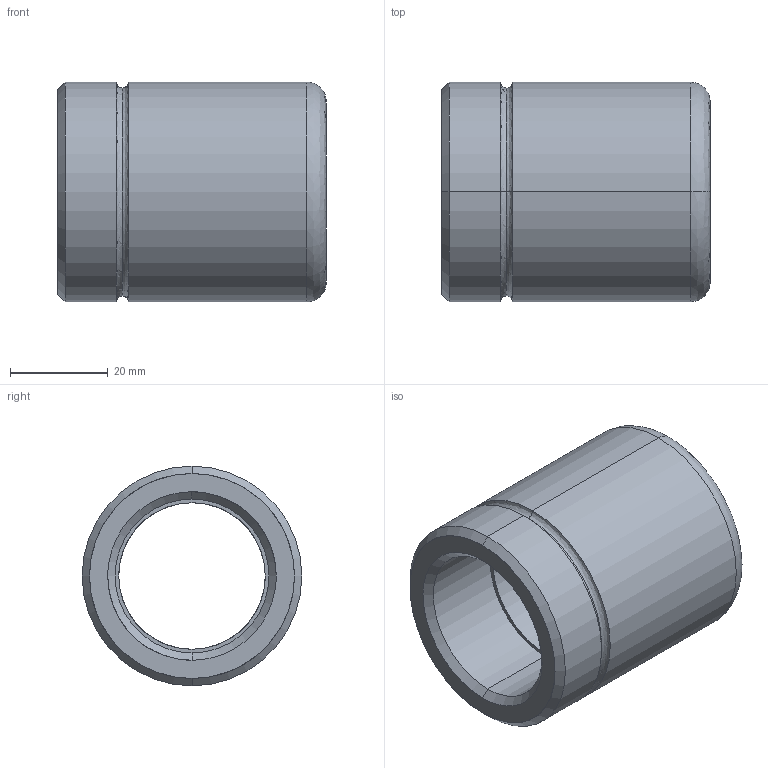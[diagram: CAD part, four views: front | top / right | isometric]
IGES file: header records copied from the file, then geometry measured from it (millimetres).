
Start section: START RECORD GO HERE.
Global section: file name: 347-30 x 55.igs; native system: DASSAULT SYSTEMES CATIA V5 R20 - www.3ds.com; preprocessor: CATIA Version 5 Release 20 ; author: Utente; organization: NB04-ASUS; date: 20210101.110027; units: millimetre
Bounding box: 55 x 45 x 45 mm (x, y, z)
Surface area: 14681.8 mm2 (no closed solid volume)
Topology: 0 solids, 0 shells, 29 faces, 172 edges, 172 vertices
Faces by surface type: revolution 26, plane 3
